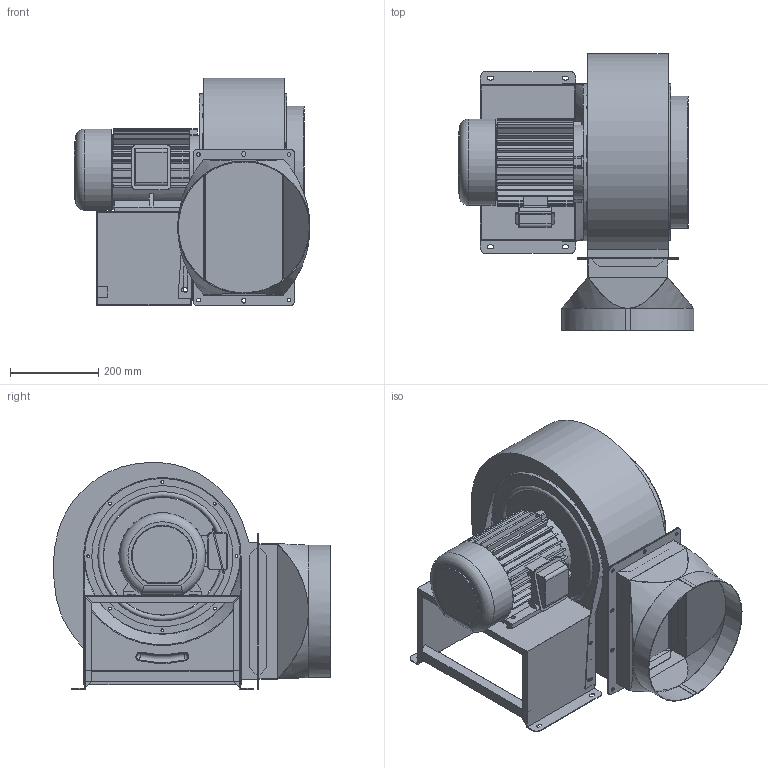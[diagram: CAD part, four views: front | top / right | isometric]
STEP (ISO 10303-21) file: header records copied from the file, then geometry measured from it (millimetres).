
FILE_DESCRIPTION(/* description */ ('Unknown'),/* implementation_level */ '2;1');
FILE_NAME(/* name */ 'CY310A2H4P3Q-EG 型錄 & CY310A3H4P3SQ-EG 尺寸一樣',/* time_stamp */ '2026-07-10T11:14:51+08:00',/* author */ ('Unknown'),/* organization */ ('Unknown'),/* preprocessor_version */ 'ST-DEVELOPER v20',/* originating_system */ 'Solid Edge',/* authorisation */ 'Unknown');
FILE_SCHEMA (('AUTOMOTIVE_DESIGN {1 0 10303 214 3 1 1}'));
Length unit declared in the file: millimetre
Products named in the file (5): CY310A2H4P3Q-EG 型錄 & CY310A3H4P3SQ-EG   尺; CY310A2H4P3Q  無外殼無Q; CY310##02 + CY310-05; JM3103H4P3S-EG(KAF453) JM3102H4P3-EG(KAF452) JM2002H2P3-EG(KAF399); CY310-01
Assembly tree (4 placements, depth 2):
  CY310A2H4P3Q-EG 型錄 & CY310A3H4P3SQ-EG   尺
    CY310A2H4P3Q  無外殼無Q
    CY310##02 + CY310-05
    JM3103H4P3S-EG(KAF453) JM3102H4P3-EG(KAF452) JM2002H2P3-EG(KAF399)
    CY310-01
Bounding box: 534.8 x 627.64 x 515.15 mm (x, y, z)
Volume: 28730474.4 mm3; surface area: 2666668 mm2
Topology: 12 solids, 12 shells, 732 faces, 1996 edges, 1315 vertices
Faces by surface type: plane 444, cylinder 259, torus 17, bspline 4, sphere 4, cone 4
Full cylindrical faces by diameter (mm): 0.02 x1, 6 x8, 6.5 x24, 8.5 x14, 10 x4, 24 x1, 25.5 x1, 29.8 x1, 40 x1, 60 x1, 127 x1, 168 x1, 170 x1, 267 x1, 289 x1, 293 x1, 297 x1, 300 x1, 320 x1, 350 x1, 352.6 x1, 355 x1
Entity records: 23196 total; most frequent: CARTESIAN_POINT 4182, DIRECTION 3968, ORIENTED_EDGE 3748, EDGE_CURVE 1874, AXIS2_PLACEMENT_3D 1386, VERTEX_POINT 1270, LINE 1196, VECTOR 1196
